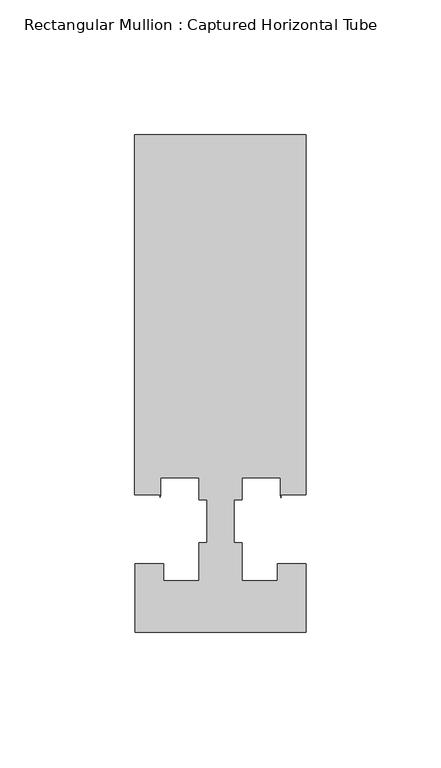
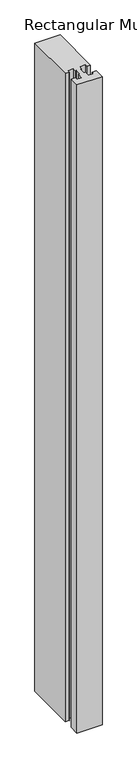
"""IFC4 building model written with IfcOpenShell, lengths in millimetres: member geometry, Rectangular Mullion : Captured Horizontal Tube."""

from ifc_helpers import new_model, si_unit, frame, origin, place, context, project, spatial, polyline, outline, extrude, source, transform, mapped, element, save


def rectangular_mullion_captured_horizontal_tube_9d754ffc(model_context):
    return source(origin(), model_context, "Body", "SweptSolid", [
        extrude(outline(polyline([(31.7705663, 114.3), (31.7705663, -18.933673), (22.3913824, -18.933673), (22.3913824, -20.0839351), (22.2251125, -18.933673), (22.2251125, -12.7), (8.0416658, -12.7), (8.0416658, -20.8793999), (4.988785, -20.8793999), (4.988785, -36.6491027), (7.9374472, -36.6491027), (7.9374472, -50.8001709), (21.0845479, -50.8001709), (21.0845479, -44.4245655), (31.7705663, -44.4245655), (31.7705663, -69.8502416), (-31.7294337, -69.8502416), (-31.7294337, -44.4247364), (-21.0270883, -44.4247364), (-21.0270883, -50.8001709), (-7.9375539, -50.8001709), (-7.9375539, -36.6491027), (-4.9639474, -36.6491027), (-4.9639474, -20.8793999), (-7.9375542, -20.8793999), (-7.9375542, -12.7), (-22.2250091, -12.7), (-22.2250091, -18.948961), (-22.4113151, -19.8905485), (-22.4113151, -18.9488461), (-31.75, -18.9488461), (-31.75, 114.3), (31.7705663, 114.3)])), frame((0.0, 0.0, -1733.5294337), z_axis=(0.0, 0.0, 1.0), x_axis=(1.0, 0.0, 0.0)), (0.0, 0.0, 1.0), 1733.5294337),
    ])


if __name__ == "__main__":
    model = new_model("IFC4")
    model_context = context("Model", 3, world=origin())
    ifc_project = project(units=[si_unit("LENGTHUNIT", "METRE", prefix="MILLI")], contexts=[model_context])
    site = spatial("IfcSite", under=ifc_project)
    building = spatial("IfcBuilding", under=site)
    placement = place(None, origin())
    rectangular_mullion_captured_horizontal_tube_shape = rectangular_mullion_captured_horizontal_tube_9d754ffc(model_context)
    element("IfcMember", 1, ObjectType="Rectangular Mullion : Captured Horizontal Tube", at=placement, inside=building, context=model_context, shape_type="MappedRepresentation", body=[
        mapped(rectangular_mullion_captured_horizontal_tube_shape, transform((0.0, 0.0, 0.0), x_axis=(1.0, 0.0, 0.0), y_axis=(0.0, 1.0, 0.0), z_axis=(0.0, 0.0, 1.0))),
    ])
    save(model, "model.ifc")
